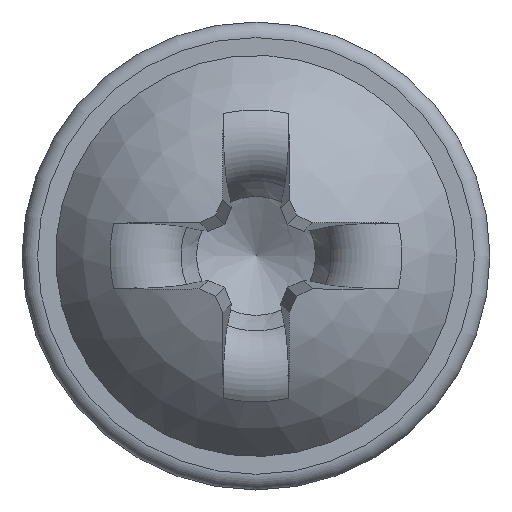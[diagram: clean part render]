
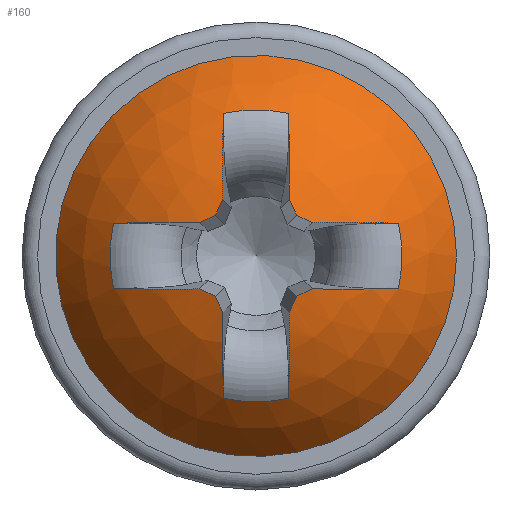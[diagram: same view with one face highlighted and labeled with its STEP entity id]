
A CAD part, top view. The second image highlights one B-rep face of the part: STEP entity #160.
In plain terms, the highlighted spherical face has radius 2.513 mm.
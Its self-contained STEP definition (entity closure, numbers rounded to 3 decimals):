
#129=SPHERICAL_SURFACE('',#953,2.513);
#140=FACE_BOUND('',#270,.T.);
#141=FACE_BOUND('',#271,.T.);
#160=ADVANCED_FACE('',(#140,#141),#129,.T.);
#270=EDGE_LOOP('',(#384));
#271=EDGE_LOOP('',(#385,#386,#387,#388,#389,#390,#391,#392,#393,#394,#395,
#396,#397,#398,#399,#400,#401,#402,#403,#404));
#335=CIRCLE('',#932,2.143);
#336=CIRCLE('',#933,2.51);
#337=CIRCLE('',#934,1.561);
#338=CIRCLE('',#935,2.51);
#339=CIRCLE('',#936,2.499);
#340=CIRCLE('',#937,2.499);
#341=CIRCLE('',#938,2.51);
#342=CIRCLE('',#939,1.561);
#343=CIRCLE('',#940,2.51);
#344=CIRCLE('',#941,2.499);
#345=CIRCLE('',#942,2.499);
#346=CIRCLE('',#943,2.51);
#347=CIRCLE('',#944,1.561);
#348=CIRCLE('',#945,2.51);
#349=CIRCLE('',#946,2.499);
#350=CIRCLE('',#947,2.499);
#351=CIRCLE('',#948,2.51);
#352=CIRCLE('',#949,1.561);
#353=CIRCLE('',#950,2.51);
#354=CIRCLE('',#951,2.499);
#355=CIRCLE('',#952,2.499);
#384=ORIENTED_EDGE('',*,*,#738,.T.);
#385=ORIENTED_EDGE('',*,*,#739,.F.);
#386=ORIENTED_EDGE('',*,*,#740,.T.);
#387=ORIENTED_EDGE('',*,*,#741,.F.);
#388=ORIENTED_EDGE('',*,*,#742,.F.);
#389=ORIENTED_EDGE('',*,*,#743,.F.);
#390=ORIENTED_EDGE('',*,*,#744,.F.);
#391=ORIENTED_EDGE('',*,*,#745,.T.);
#392=ORIENTED_EDGE('',*,*,#746,.F.);
#393=ORIENTED_EDGE('',*,*,#747,.F.);
#394=ORIENTED_EDGE('',*,*,#748,.F.);
#395=ORIENTED_EDGE('',*,*,#749,.F.);
#396=ORIENTED_EDGE('',*,*,#750,.T.);
#397=ORIENTED_EDGE('',*,*,#751,.F.);
#398=ORIENTED_EDGE('',*,*,#752,.F.);
#399=ORIENTED_EDGE('',*,*,#753,.F.);
#400=ORIENTED_EDGE('',*,*,#754,.F.);
#401=ORIENTED_EDGE('',*,*,#755,.T.);
#402=ORIENTED_EDGE('',*,*,#756,.F.);
#403=ORIENTED_EDGE('',*,*,#757,.F.);
#404=ORIENTED_EDGE('',*,*,#758,.F.);
#648=VERTEX_POINT('',#1461);
#649=VERTEX_POINT('',#1463);
#650=VERTEX_POINT('',#1464);
#651=VERTEX_POINT('',#1466);
#652=VERTEX_POINT('',#1468);
#653=VERTEX_POINT('',#1470);
#654=VERTEX_POINT('',#1472);
#655=VERTEX_POINT('',#1474);
#656=VERTEX_POINT('',#1476);
#657=VERTEX_POINT('',#1478);
#658=VERTEX_POINT('',#1480);
#659=VERTEX_POINT('',#1482);
#660=VERTEX_POINT('',#1484);
#661=VERTEX_POINT('',#1486);
#662=VERTEX_POINT('',#1488);
#663=VERTEX_POINT('',#1490);
#664=VERTEX_POINT('',#1492);
#665=VERTEX_POINT('',#1494);
#666=VERTEX_POINT('',#1496);
#667=VERTEX_POINT('',#1498);
#668=VERTEX_POINT('',#1500);
#738=EDGE_CURVE('',#648,#648,#335,.T.);
#739=EDGE_CURVE('',#649,#650,#336,.T.);
#740=EDGE_CURVE('',#649,#651,#337,.T.);
#741=EDGE_CURVE('',#652,#651,#338,.T.);
#742=EDGE_CURVE('',#653,#652,#339,.T.);
#743=EDGE_CURVE('',#654,#653,#340,.T.);
#744=EDGE_CURVE('',#655,#654,#341,.T.);
#745=EDGE_CURVE('',#655,#656,#342,.T.);
#746=EDGE_CURVE('',#657,#656,#343,.T.);
#747=EDGE_CURVE('',#658,#657,#344,.T.);
#748=EDGE_CURVE('',#659,#658,#345,.T.);
#749=EDGE_CURVE('',#660,#659,#346,.T.);
#750=EDGE_CURVE('',#660,#661,#347,.T.);
#751=EDGE_CURVE('',#662,#661,#348,.T.);
#752=EDGE_CURVE('',#663,#662,#349,.T.);
#753=EDGE_CURVE('',#664,#663,#350,.T.);
#754=EDGE_CURVE('',#665,#664,#351,.T.);
#755=EDGE_CURVE('',#665,#666,#352,.T.);
#756=EDGE_CURVE('',#667,#666,#353,.T.);
#757=EDGE_CURVE('',#668,#667,#354,.T.);
#758=EDGE_CURVE('',#650,#668,#355,.T.);
#932=AXIS2_PLACEMENT_3D('',#1460,#1017,#1018);
#933=AXIS2_PLACEMENT_3D('',#1462,#1019,#1020);
#934=AXIS2_PLACEMENT_3D('',#1465,#1021,#1022);
#935=AXIS2_PLACEMENT_3D('',#1467,#1023,#1024);
#936=AXIS2_PLACEMENT_3D('',#1469,#1025,#1026);
#937=AXIS2_PLACEMENT_3D('',#1471,#1027,#1028);
#938=AXIS2_PLACEMENT_3D('',#1473,#1029,#1030);
#939=AXIS2_PLACEMENT_3D('',#1475,#1031,#1032);
#940=AXIS2_PLACEMENT_3D('',#1477,#1033,#1034);
#941=AXIS2_PLACEMENT_3D('',#1479,#1035,#1036);
#942=AXIS2_PLACEMENT_3D('',#1481,#1037,#1038);
#943=AXIS2_PLACEMENT_3D('',#1483,#1039,#1040);
#944=AXIS2_PLACEMENT_3D('',#1485,#1041,#1042);
#945=AXIS2_PLACEMENT_3D('',#1487,#1043,#1044);
#946=AXIS2_PLACEMENT_3D('',#1489,#1045,#1046);
#947=AXIS2_PLACEMENT_3D('',#1491,#1047,#1048);
#948=AXIS2_PLACEMENT_3D('',#1493,#1049,#1050);
#949=AXIS2_PLACEMENT_3D('',#1495,#1051,#1052);
#950=AXIS2_PLACEMENT_3D('',#1497,#1053,#1054);
#951=AXIS2_PLACEMENT_3D('',#1499,#1055,#1056);
#952=AXIS2_PLACEMENT_3D('',#1501,#1057,#1058);
#953=AXIS2_PLACEMENT_3D('',#1502,#1059,#1060);
#1017=DIRECTION('',(0.,0.,1.));
#1018=DIRECTION('',(1.,0.,0.));
#1019=DIRECTION('',(-0.035,0.996,0.087));
#1020=DIRECTION('',(0.,-0.087,0.996));
#1021=DIRECTION('',(0.,0.,-1.));
#1022=DIRECTION('',(-1.,0.,0.));
#1023=DIRECTION('',(-0.035,-0.996,0.087));
#1024=DIRECTION('',(0.,-0.087,-0.996));
#1025=DIRECTION('',(0.404,-0.907,0.122));
#1026=DIRECTION('',(0.914,0.407,0.));
#1027=DIRECTION('',(0.907,-0.404,0.122));
#1028=DIRECTION('',(0.407,0.914,0.));
#1029=DIRECTION('',(0.996,0.035,0.087));
#1030=DIRECTION('',(0.087,0.,-0.996));
#1031=DIRECTION('',(0.,0.,-1.));
#1032=DIRECTION('',(-1.,0.,0.));
#1033=DIRECTION('',(-0.996,0.035,0.087));
#1034=DIRECTION('',(0.087,0.,0.996));
#1035=DIRECTION('',(-0.907,-0.404,0.122));
#1036=DIRECTION('',(0.407,-0.914,0.));
#1037=DIRECTION('',(-0.404,-0.907,0.122));
#1038=DIRECTION('',(0.914,-0.407,0.));
#1039=DIRECTION('',(0.035,-0.996,0.087));
#1040=DIRECTION('',(0.,-0.087,-0.996));
#1041=DIRECTION('',(0.,0.,-1.));
#1042=DIRECTION('',(-1.,0.,0.));
#1043=DIRECTION('',(0.035,0.996,0.087));
#1044=DIRECTION('',(0.,-0.087,0.996));
#1045=DIRECTION('',(-0.404,0.907,0.122));
#1046=DIRECTION('',(-0.914,-0.407,0.));
#1047=DIRECTION('',(-0.907,0.404,0.122));
#1048=DIRECTION('',(-0.407,-0.914,0.));
#1049=DIRECTION('',(-0.996,-0.035,0.087));
#1050=DIRECTION('',(0.087,0.,0.996));
#1051=DIRECTION('',(0.,0.,-1.));
#1052=DIRECTION('',(-1.,0.,0.));
#1053=DIRECTION('',(0.996,-0.035,0.087));
#1054=DIRECTION('',(0.087,0.,-0.996));
#1055=DIRECTION('',(0.907,0.404,0.122));
#1056=DIRECTION('',(-0.407,0.914,0.));
#1057=DIRECTION('',(0.404,0.907,0.122));
#1058=DIRECTION('',(-0.914,0.407,0.));
#1059=DIRECTION('',(0.,0.,1.));
#1060=DIRECTION('',(0.,1.,0.));
#1460=CARTESIAN_POINT('',(0.,0.,0.6));
#1461=CARTESIAN_POINT('',(2.143,0.,0.6));
#1462=CARTESIAN_POINT('',(0.004,-0.121,-0.724));
#1463=CARTESIAN_POINT('',(-1.522,-0.347,1.256));
#1464=CARTESIAN_POINT('',(-0.604,-0.354,1.7));
#1465=CARTESIAN_POINT('',(0.,0.,1.256));
#1466=CARTESIAN_POINT('',(-1.522,0.347,1.256));
#1467=CARTESIAN_POINT('',(0.004,0.121,-0.724));
#1468=CARTESIAN_POINT('',(-0.604,0.354,1.7));
#1469=CARTESIAN_POINT('',(-0.109,0.246,-0.746));
#1470=CARTESIAN_POINT('',(-0.434,0.434,1.724));
#1471=CARTESIAN_POINT('',(-0.246,0.109,-0.746));
#1472=CARTESIAN_POINT('',(-0.354,0.604,1.7));
#1473=CARTESIAN_POINT('',(-0.121,-0.004,-0.724));
#1474=CARTESIAN_POINT('',(-0.347,1.522,1.256));
#1475=CARTESIAN_POINT('',(0.,0.,1.256));
#1476=CARTESIAN_POINT('',(0.347,1.522,1.256));
#1477=CARTESIAN_POINT('',(0.121,-0.004,-0.724));
#1478=CARTESIAN_POINT('',(0.354,0.604,1.7));
#1479=CARTESIAN_POINT('',(0.246,0.109,-0.746));
#1480=CARTESIAN_POINT('',(0.434,0.434,1.724));
#1481=CARTESIAN_POINT('',(0.109,0.246,-0.746));
#1482=CARTESIAN_POINT('',(0.604,0.354,1.7));
#1483=CARTESIAN_POINT('',(-0.004,0.121,-0.724));
#1484=CARTESIAN_POINT('',(1.522,0.347,1.256));
#1485=CARTESIAN_POINT('',(0.,0.,1.256));
#1486=CARTESIAN_POINT('',(1.522,-0.347,1.256));
#1487=CARTESIAN_POINT('',(-0.004,-0.121,-0.724));
#1488=CARTESIAN_POINT('',(0.604,-0.354,1.7));
#1489=CARTESIAN_POINT('',(0.109,-0.246,-0.746));
#1490=CARTESIAN_POINT('',(0.434,-0.434,1.724));
#1491=CARTESIAN_POINT('',(0.246,-0.109,-0.746));
#1492=CARTESIAN_POINT('',(0.354,-0.604,1.7));
#1493=CARTESIAN_POINT('',(0.121,0.004,-0.724));
#1494=CARTESIAN_POINT('',(0.347,-1.522,1.256));
#1495=CARTESIAN_POINT('',(0.,0.,1.256));
#1496=CARTESIAN_POINT('',(-0.347,-1.522,1.256));
#1497=CARTESIAN_POINT('',(-0.121,0.004,-0.724));
#1498=CARTESIAN_POINT('',(-0.354,-0.604,1.7));
#1499=CARTESIAN_POINT('',(-0.246,-0.109,-0.746));
#1500=CARTESIAN_POINT('',(-0.434,-0.434,1.724));
#1501=CARTESIAN_POINT('',(-0.109,-0.246,-0.746));
#1502=CARTESIAN_POINT('',(0.,0.,-0.713));
